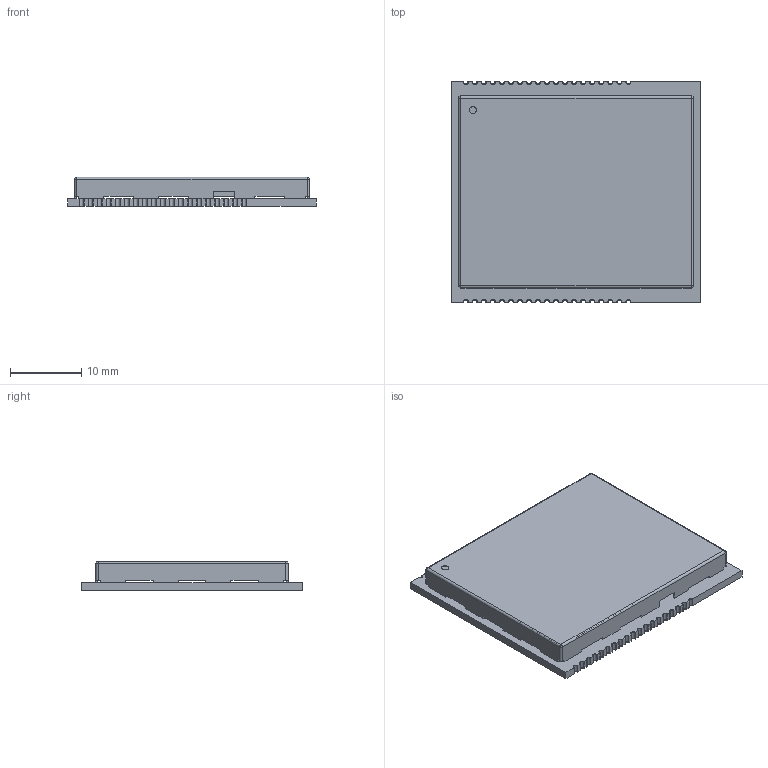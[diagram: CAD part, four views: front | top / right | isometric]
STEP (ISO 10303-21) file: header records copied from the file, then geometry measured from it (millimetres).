
FILE_DESCRIPTION(/* description */ (''),/* implementation_level */ '2;1');
FILE_NAME(/* name */ 'c:\worker\convert-fusion-r04\tmp\job-1\277\output\files\eb9de228-b273-4a5c-9ee4-bb436db864e6\c77dd727-4e0b-47c2-8092-99f84d22dbd1.stp',/* time_stamp */ '2022-08-12T10:28:27Z',/* author */ (''),/* organization */ (''),/* preprocessor_version */ 'ST-DEVELOPER v19',/* originating_system */ 'Autodesk Translation Framework v11.7.0.108',/* authorisation */ '');
FILE_SCHEMA (('AUTOMOTIVE_DESIGN { 1 0 10303 214 3 1 1 }'));
Length unit declared in the file: millimetre
Products named in the file (1): Astronode S
Bounding box: 35 x 31 x 4.13 mm (x, y, z)
Volume: 1427.1 mm3; surface area: 7579.3 mm2
Topology: 3 solids, 3 shells, 680 faces, 2191 edges, 1482 vertices
Faces by surface type: plane 553, cylinder 123, sphere 4
Full cylindrical faces by diameter (mm): 1 x1
Entity records: 24133 total; most frequent: ORIENTED_EDGE 4382, CARTESIAN_POINT 4354, DIRECTION 3799, EDGE_CURVE 2191, LINE 1945, VECTOR 1945, VERTEX_POINT 1482, AXIS2_PLACEMENT_3D 927
